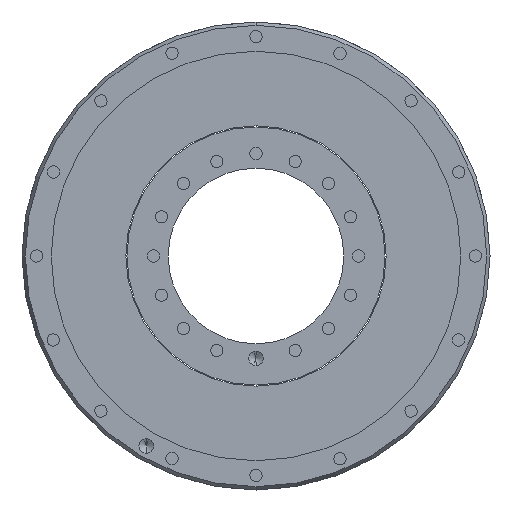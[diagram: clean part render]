
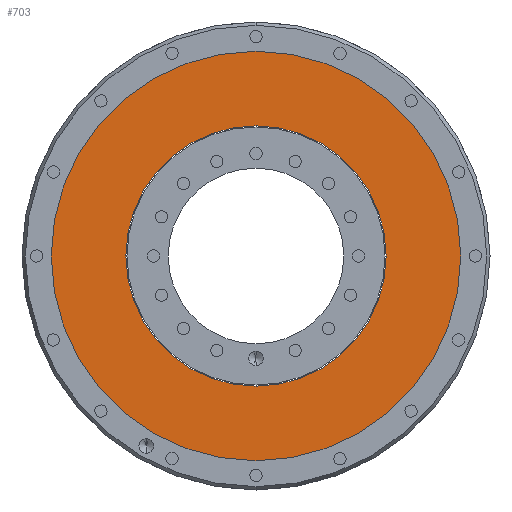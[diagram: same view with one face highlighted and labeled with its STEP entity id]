
A CAD part, front view. The second image highlights one B-rep face of the part: STEP entity #703.
In plain terms, the highlighted planar face has unit normal (0, -1, 0).
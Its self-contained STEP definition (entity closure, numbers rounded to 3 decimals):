
#103 = DIRECTION ( 'NONE',  ( 0., -1., 0. ) ) ;
#159 = DIRECTION ( 'NONE',  ( 0., -1., 0. ) ) ;
#385 = AXIS2_PLACEMENT_3D ( 'NONE', #7003, #2801, #7703 ) ;
#703 = ADVANCED_FACE ( 'NONE', ( #786, #5228 ), #8470, .T. ) ;
#786 = FACE_OUTER_BOUND ( 'NONE', #5113, .T. ) ;
#818 = CARTESIAN_POINT ( 'NONE',  ( 44.5, 1., 0. ) ) ;
#1434 = DIRECTION ( 'NONE',  ( 0., 0., -1. ) ) ;
#1444 = CIRCLE ( 'NONE', #6906, 44.5 ) ;
#1491 = CARTESIAN_POINT ( 'NONE',  ( 0., 1., 0. ) ) ;
#1537 = DIRECTION ( 'NONE',  ( 0., 0., -1. ) ) ;
#1622 = ORIENTED_EDGE ( 'NONE', *, *, #2694, .T. ) ;
#2068 = CIRCLE ( 'NONE', #8911, 44.5 ) ;
#2310 = DIRECTION ( 'NONE',  ( 0., -1., 0. ) ) ;
#2425 = CARTESIAN_POINT ( 'NONE',  ( 0., 1., 70. ) ) ;
#2694 = EDGE_CURVE ( 'NONE', #8938, #4519, #7513, .T. ) ;
#2801 = DIRECTION ( 'NONE',  ( 0., -1., 0. ) ) ;
#2889 = DIRECTION ( 'NONE',  ( 0., 0., -1. ) ) ;
#3110 = CARTESIAN_POINT ( 'NONE',  ( 0., 1., -44.5 ) ) ;
#3406 = ORIENTED_EDGE ( 'NONE', *, *, #6275, .T. ) ;
#3610 = CARTESIAN_POINT ( 'NONE',  ( 0., 1., 0. ) ) ;
#3643 = CARTESIAN_POINT ( 'NONE',  ( 0., 1., -70. ) ) ;
#4312 = VERTEX_POINT ( 'NONE', #6442 ) ;
#4519 = VERTEX_POINT ( 'NONE', #2425 ) ;
#4709 = EDGE_LOOP ( 'NONE', ( #4768, #8705 ) ) ;
#4760 = EDGE_CURVE ( 'NONE', #5756, #4312, #2068, .T. ) ;
#4768 = ORIENTED_EDGE ( 'NONE', *, *, #4760, .F. ) ;
#5113 = EDGE_LOOP ( 'NONE', ( #1622, #3406 ) ) ;
#5228 = FACE_BOUND ( 'NONE', #4709, .T. ) ;
#5622 = DIRECTION ( 'NONE',  ( 0., -1., 0. ) ) ;
#5756 = VERTEX_POINT ( 'NONE', #3110 ) ;
#6205 = EDGE_CURVE ( 'NONE', #4312, #5756, #1444, .T. ) ;
#6275 = EDGE_CURVE ( 'NONE', #4519, #8938, #7103, .T. ) ;
#6347 = CARTESIAN_POINT ( 'NONE',  ( 0., 1., 0. ) ) ;
#6442 = CARTESIAN_POINT ( 'NONE',  ( 0., 1., 44.5 ) ) ;
#6906 = AXIS2_PLACEMENT_3D ( 'NONE', #1491, #5622, #1434 ) ;
#7003 = CARTESIAN_POINT ( 'NONE',  ( 0., 1., 0. ) ) ;
#7103 = CIRCLE ( 'NONE', #385, 70. ) ;
#7513 = CIRCLE ( 'NONE', #7998, 70. ) ;
#7682 = AXIS2_PLACEMENT_3D ( 'NONE', #818, #2310, #2889 ) ;
#7703 = DIRECTION ( 'NONE',  ( 0., 0., -1. ) ) ;
#7998 = AXIS2_PLACEMENT_3D ( 'NONE', #3610, #159, #8592 ) ;
#8470 = PLANE ( 'NONE',  #7682 ) ;
#8592 = DIRECTION ( 'NONE',  ( 0., 0., -1. ) ) ;
#8705 = ORIENTED_EDGE ( 'NONE', *, *, #6205, .F. ) ;
#8911 = AXIS2_PLACEMENT_3D ( 'NONE', #6347, #103, #1537 ) ;
#8938 = VERTEX_POINT ( 'NONE', #3643 ) ;
